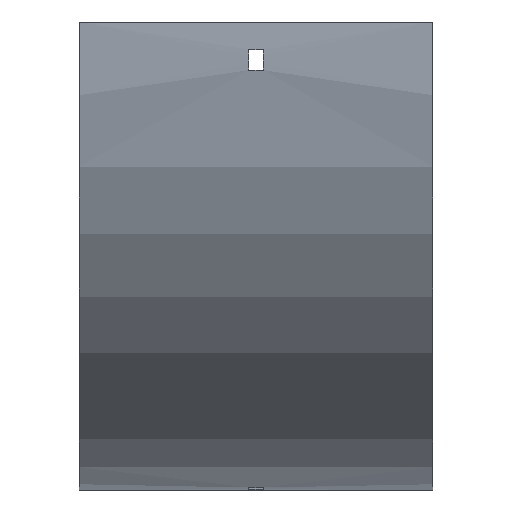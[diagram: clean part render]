
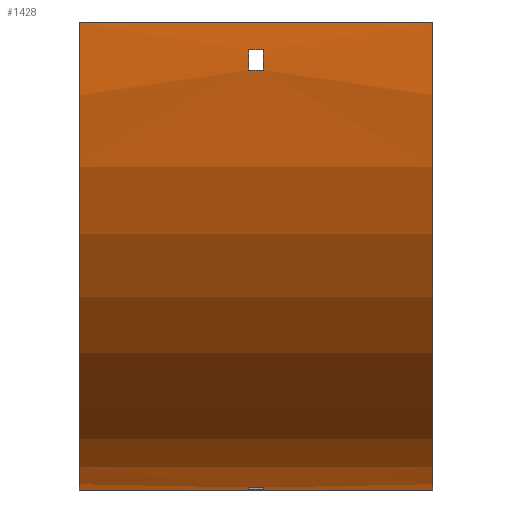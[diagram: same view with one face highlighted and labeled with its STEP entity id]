
A CAD part, front view. The second image highlights one B-rep face of the part: STEP entity #1428.
In plain terms, the highlighted cylindrical face has radius 204 mm (diameter 408 mm), a partial arc.
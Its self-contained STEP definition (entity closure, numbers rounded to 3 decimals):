
#47 = CARTESIAN_POINT ( 'NONE',  ( 77., -102.916, -21. ) ) ;
#89 = CARTESIAN_POINT ( 'NONE',  ( 77., 79., -202.916 ) ) ;
#93 = EDGE_CURVE ( 'NONE', #1453, #568, #1642, .T. ) ;
#141 = ORIENTED_EDGE ( 'NONE', *, *, #1685, .T. ) ;
#186 = VECTOR ( 'NONE', #974, 1000. ) ;
#187 = DIRECTION ( 'NONE',  ( 0., 0., -1. ) ) ;
#213 = CARTESIAN_POINT ( 'NONE',  ( -77., -104., 0. ) ) ;
#231 = CARTESIAN_POINT ( 'NONE',  ( -3.25, 79., -202.916 ) ) ;
#257 = FACE_OUTER_BOUND ( 'NONE', #706, .T. ) ;
#260 = EDGE_CURVE ( 'NONE', #511, #1209, #932, .T. ) ;
#263 = DIRECTION ( 'NONE',  ( 1., 0., 0. ) ) ;
#267 = VECTOR ( 'NONE', #1121, 1000. ) ;
#273 = EDGE_LOOP ( 'NONE', ( #1054, #460, #1112, #504 ) ) ;
#292 = AXIS2_PLACEMENT_3D ( 'NONE', #1150, #1506, #1275 ) ;
#335 = AXIS2_PLACEMENT_3D ( 'NONE', #566, #1612, #716 ) ;
#352 = VECTOR ( 'NONE', #707, 1000. ) ;
#360 = CARTESIAN_POINT ( 'NONE',  ( -3.25, -102.916, -21. ) ) ;
#394 = ORIENTED_EDGE ( 'NONE', *, *, #1639, .F. ) ;
#400 = CYLINDRICAL_SURFACE ( 'NONE', #1445, 204. ) ;
#414 = CARTESIAN_POINT ( 'NONE',  ( 77., 100., 0. ) ) ;
#423 = VERTEX_POINT ( 'NONE', #213 ) ;
#439 = VERTEX_POINT ( 'NONE', #1122 ) ;
#451 = CARTESIAN_POINT ( 'NONE',  ( 3.25, 100., 0. ) ) ;
#460 = ORIENTED_EDGE ( 'NONE', *, *, #695, .F. ) ;
#504 = ORIENTED_EDGE ( 'NONE', *, *, #548, .F. ) ;
#505 = DIRECTION ( 'NONE',  ( 1., 0., 0. ) ) ;
#511 = VERTEX_POINT ( 'NONE', #231 ) ;
#519 = CARTESIAN_POINT ( 'NONE',  ( -77., 100., 0. ) ) ;
#536 = DIRECTION ( 'NONE',  ( 0., 0., 1. ) ) ;
#548 = EDGE_CURVE ( 'NONE', #1209, #439, #812, .T. ) ;
#554 = CARTESIAN_POINT ( 'NONE',  ( -3.25, 88., -203.647 ) ) ;
#566 = CARTESIAN_POINT ( 'NONE',  ( -3.25, 100., 0. ) ) ;
#568 = VERTEX_POINT ( 'NONE', #1070 ) ;
#578 = CARTESIAN_POINT ( 'NONE',  ( 77., 100., -204. ) ) ;
#588 = DIRECTION ( 'NONE',  ( 0., 0., 1. ) ) ;
#609 = VERTEX_POINT ( 'NONE', #1464 ) ;
#647 = CIRCLE ( 'NONE', #1010, 204. ) ;
#653 = VERTEX_POINT ( 'NONE', #1111 ) ;
#678 = CIRCLE ( 'NONE', #1516, 204. ) ;
#695 = EDGE_CURVE ( 'NONE', #1502, #511, #1378, .T. ) ;
#706 = EDGE_LOOP ( 'NONE', ( #845, #394, #864, #827 ) ) ;
#707 = DIRECTION ( 'NONE',  ( -1., 0., 0. ) ) ;
#716 = DIRECTION ( 'NONE',  ( 0., 1., 0. ) ) ;
#751 = ORIENTED_EDGE ( 'NONE', *, *, #873, .T. ) ;
#756 = AXIS2_PLACEMENT_3D ( 'NONE', #414, #1463, #1014 ) ;
#757 = VECTOR ( 'NONE', #505, 1000. ) ;
#774 = EDGE_CURVE ( 'NONE', #439, #1502, #807, .T. ) ;
#801 = LINE ( 'NONE', #47, #352 ) ;
#807 = CIRCLE ( 'NONE', #1143, 204. ) ;
#812 = LINE ( 'NONE', #1052, #1629 ) ;
#814 = CARTESIAN_POINT ( 'NONE',  ( 3.25, 79., -202.916 ) ) ;
#824 = EDGE_LOOP ( 'NONE', ( #1163, #751, #956, #141 ) ) ;
#825 = CARTESIAN_POINT ( 'NONE',  ( -77., 100., -204. ) ) ;
#827 = ORIENTED_EDGE ( 'NONE', *, *, #1335, .T. ) ;
#837 = CARTESIAN_POINT ( 'NONE',  ( -3.25, -103.647, -12. ) ) ;
#838 = DIRECTION ( 'NONE',  ( -1., 0., 0. ) ) ;
#845 = ORIENTED_EDGE ( 'NONE', *, *, #1425, .T. ) ;
#864 = ORIENTED_EDGE ( 'NONE', *, *, #93, .F. ) ;
#873 = EDGE_CURVE ( 'NONE', #957, #1146, #980, .T. ) ;
#913 = FACE_BOUND ( 'NONE', #273, .T. ) ;
#932 = CIRCLE ( 'NONE', #335, 204. ) ;
#956 = ORIENTED_EDGE ( 'NONE', *, *, #971, .T. ) ;
#957 = VERTEX_POINT ( 'NONE', #360 ) ;
#971 = EDGE_CURVE ( 'NONE', #1146, #609, #1401, .T. ) ;
#974 = DIRECTION ( 'NONE',  ( -1., 0., 0. ) ) ;
#980 = CIRCLE ( 'NONE', #292, 204. ) ;
#984 = CARTESIAN_POINT ( 'NONE',  ( 3.25, 100., 0. ) ) ;
#1010 = AXIS2_PLACEMENT_3D ( 'NONE', #519, #263, #1561 ) ;
#1014 = DIRECTION ( 'NONE',  ( 0., 0., -1. ) ) ;
#1020 = FACE_BOUND ( 'NONE', #824, .T. ) ;
#1052 = CARTESIAN_POINT ( 'NONE',  ( 77., 88., -203.647 ) ) ;
#1054 = ORIENTED_EDGE ( 'NONE', *, *, #260, .F. ) ;
#1070 = CARTESIAN_POINT ( 'NONE',  ( 77., 100., -204. ) ) ;
#1089 = DIRECTION ( 'NONE',  ( -1., 0., 0. ) ) ;
#1111 = CARTESIAN_POINT ( 'NONE',  ( 3.25, -102.916, -21. ) ) ;
#1112 = ORIENTED_EDGE ( 'NONE', *, *, #774, .F. ) ;
#1121 = DIRECTION ( 'NONE',  ( -1., 0., 0. ) ) ;
#1122 = CARTESIAN_POINT ( 'NONE',  ( 3.25, 88., -203.647 ) ) ;
#1143 = AXIS2_PLACEMENT_3D ( 'NONE', #451, #838, #588 ) ;
#1146 = VERTEX_POINT ( 'NONE', #837 ) ;
#1150 = CARTESIAN_POINT ( 'NONE',  ( -3.25, 100., 0. ) ) ;
#1152 = EDGE_CURVE ( 'NONE', #653, #957, #801, .T. ) ;
#1159 = DIRECTION ( 'NONE',  ( -1., 0., 0. ) ) ;
#1163 = ORIENTED_EDGE ( 'NONE', *, *, #1152, .T. ) ;
#1209 = VERTEX_POINT ( 'NONE', #554 ) ;
#1213 = LINE ( 'NONE', #578, #1592 ) ;
#1263 = DIRECTION ( 'NONE',  ( 1., 0., 0. ) ) ;
#1275 = DIRECTION ( 'NONE',  ( 0., 0., 1. ) ) ;
#1286 = CARTESIAN_POINT ( 'NONE',  ( 77., 100., 0. ) ) ;
#1335 = EDGE_CURVE ( 'NONE', #1453, #423, #1359, .T. ) ;
#1359 = LINE ( 'NONE', #1542, #186 ) ;
#1378 = LINE ( 'NONE', #89, #267 ) ;
#1401 = LINE ( 'NONE', #1557, #757 ) ;
#1425 = EDGE_CURVE ( 'NONE', #423, #1626, #647, .T. ) ;
#1428 = ADVANCED_FACE ( 'NONE', ( #257, #1020, #913 ), #400, .T. ) ;
#1445 = AXIS2_PLACEMENT_3D ( 'NONE', #1286, #1159, #536 ) ;
#1453 = VERTEX_POINT ( 'NONE', #1548 ) ;
#1463 = DIRECTION ( 'NONE',  ( 1., 0., 0. ) ) ;
#1464 = CARTESIAN_POINT ( 'NONE',  ( 3.25, -103.647, -12. ) ) ;
#1502 = VERTEX_POINT ( 'NONE', #814 ) ;
#1506 = DIRECTION ( 'NONE',  ( -1., 0., 0. ) ) ;
#1516 = AXIS2_PLACEMENT_3D ( 'NONE', #984, #1263, #187 ) ;
#1542 = CARTESIAN_POINT ( 'NONE',  ( 77., -104., 0. ) ) ;
#1548 = CARTESIAN_POINT ( 'NONE',  ( 77., -104., 0. ) ) ;
#1557 = CARTESIAN_POINT ( 'NONE',  ( 77., -103.647, -12. ) ) ;
#1561 = DIRECTION ( 'NONE',  ( 0., 0., -1. ) ) ;
#1592 = VECTOR ( 'NONE', #1089, 1000. ) ;
#1598 = DIRECTION ( 'NONE',  ( 1., 0., 0. ) ) ;
#1612 = DIRECTION ( 'NONE',  ( 1., 0., 0. ) ) ;
#1626 = VERTEX_POINT ( 'NONE', #825 ) ;
#1629 = VECTOR ( 'NONE', #1598, 1000. ) ;
#1639 = EDGE_CURVE ( 'NONE', #568, #1626, #1213, .T. ) ;
#1642 = CIRCLE ( 'NONE', #756, 204. ) ;
#1685 = EDGE_CURVE ( 'NONE', #609, #653, #678, .T. ) ;
